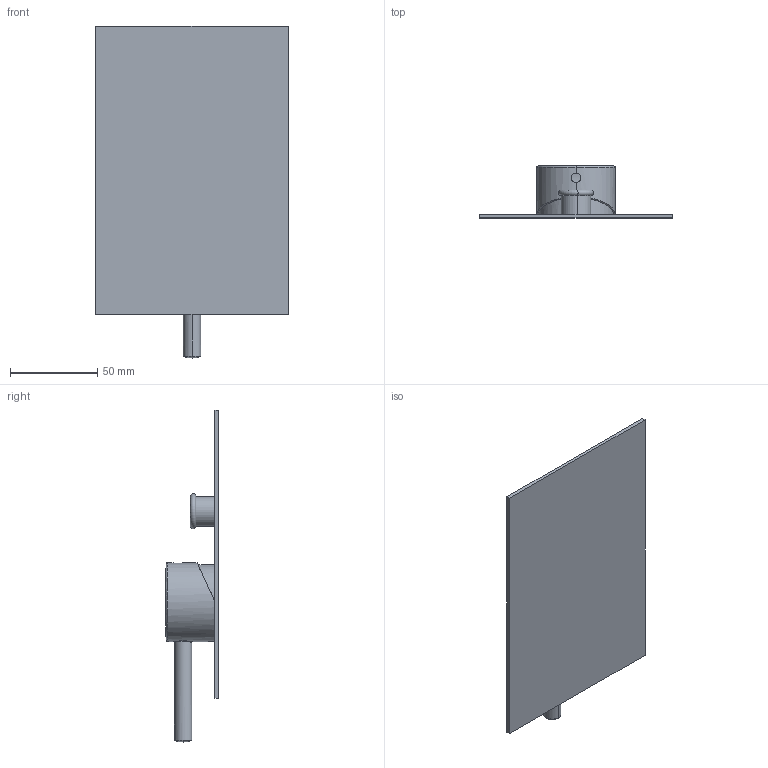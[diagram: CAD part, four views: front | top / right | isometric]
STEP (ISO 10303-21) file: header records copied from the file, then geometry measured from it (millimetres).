
FILE_DESCRIPTION (( 'STEP AP214' ), '1' );
FILE_NAME ('12102110 x architetti.STEP', '2024-09-16T08:25:59', ( '' ), ( '' ), 'SwSTEP 2.0', 'SolidWorks 2020', '' );
FILE_SCHEMA (( 'AUTOMOTIVE_DESIGN' ));
Length unit declared in the file: millimetre
Products named in the file (1): 12102110 x architetti
Bounding box: 110 x 30.14 x 190 mm (x, y, z)
Volume: 88026.6 mm3; surface area: 44421.4 mm2
Topology: 1 solids, 3 shells, 41 faces, 90 edges, 55 vertices
Faces by surface type: cylinder 16, plane 12, bspline 11, torus 2
Entity records: 2223 total; most frequent: CARTESIAN_POINT 943, ORIENTED_EDGE 176, DIRECTION 170, EDGE_CURVE 88, AXIS2_PLACEMENT_3D 70, VERTEX_POINT 55, EDGE_LOOP 45, FACE_OUTER_BOUND 41
